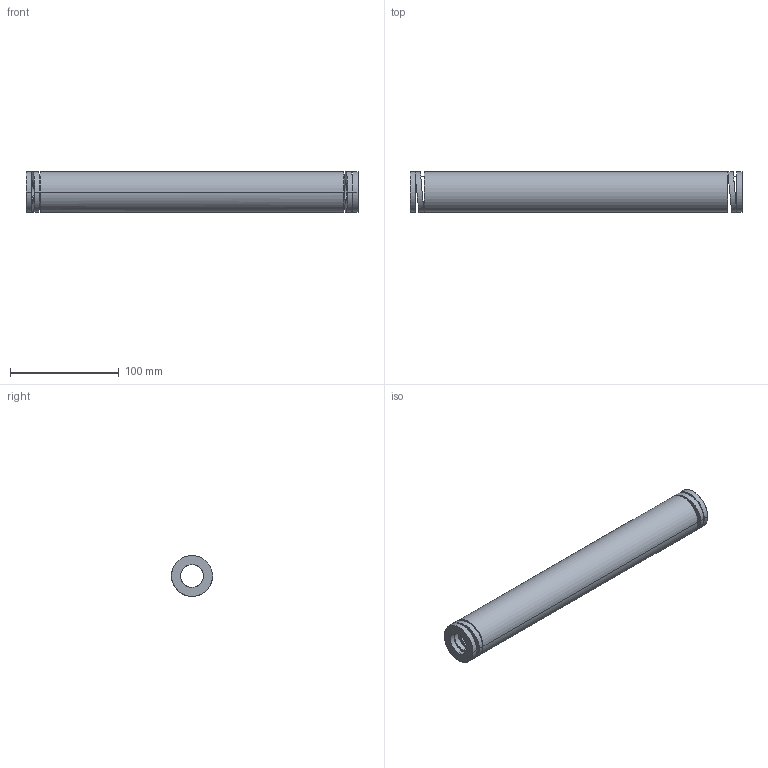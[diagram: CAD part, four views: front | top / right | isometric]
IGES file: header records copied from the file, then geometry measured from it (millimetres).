
Start section: START RECORD GO HERE.
Global section: file name: 392-B40-305.igs; native system: DASSAULT SYSTEMES CATIA V5 R20 - www.3ds.com; preprocessor: CATIA Version 5 Release 20 ; author: Utente; organization: NB04-ASUS; date: 20210813.132152; units: millimetre
Bounding box: 305 x 37.77 x 37.5 mm (x, y, z)
Surface area: 62405.8 mm2 (no closed solid volume)
Topology: 0 solids, 0 shells, 38 faces, 184 edges, 184 vertices
Faces by surface type: revolution 28, plane 10
